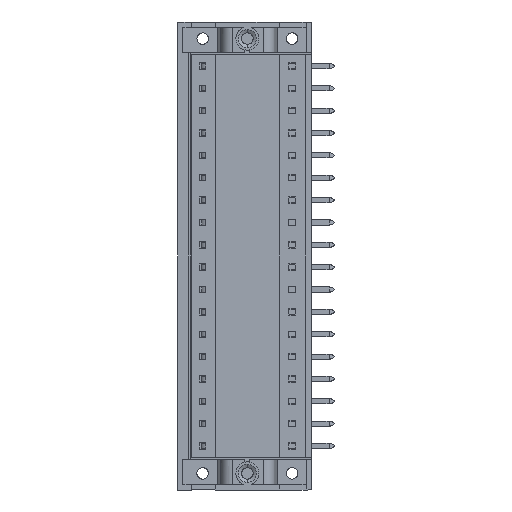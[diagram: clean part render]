
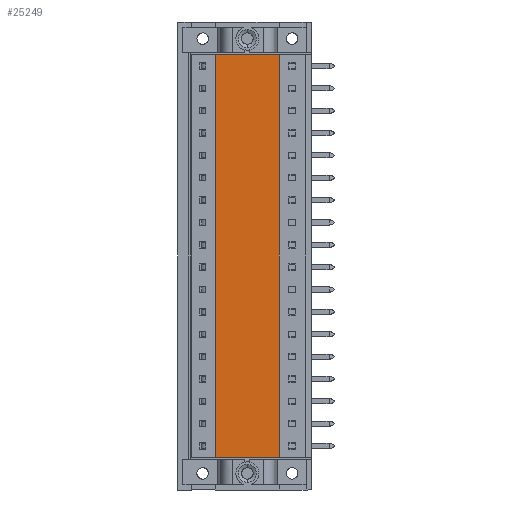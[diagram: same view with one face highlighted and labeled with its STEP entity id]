
A CAD part, left-side view. The second image highlights one B-rep face of the part: STEP entity #25249.
In plain terms, the highlighted planar face has unit normal (-1, 0, 0).
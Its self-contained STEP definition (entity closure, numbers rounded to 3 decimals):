
#2177 = VECTOR ( 'NONE', #35856, 1000. ) ;
#3134 = EDGE_CURVE ( 'NONE', #19084, #110798, #85505, .T. ) ;
#5164 = EDGE_CURVE ( 'NONE', #10055, #110798, #5722, .T. ) ;
#5722 = LINE ( 'NONE', #111110, #31256 ) ;
#7940 = EDGE_CURVE ( 'NONE', #106114, #19084, #72471, .T. ) ;
#8110 = ORIENTED_EDGE ( 'NONE', *, *, #7940, .T. ) ;
#10055 = VERTEX_POINT ( 'NONE', #18347 ) ;
#11328 = AXIS2_PLACEMENT_3D ( 'NONE', #80465, #97024, #88739 ) ;
#12091 = CARTESIAN_POINT ( 'NONE',  ( -21.7, 15., -83.9 ) ) ;
#17212 = DIRECTION ( 'NONE',  ( 0., -1., 0. ) ) ;
#18347 = CARTESIAN_POINT ( 'NONE',  ( -21.7, 15., -5.15 ) ) ;
#19084 = VERTEX_POINT ( 'NONE', #52242 ) ;
#19994 = DIRECTION ( 'NONE',  ( 0., 0., -1. ) ) ;
#25249 = ADVANCED_FACE ( 'NONE', ( #42162 ), #63203, .T. ) ;
#27960 = CARTESIAN_POINT ( 'NONE',  ( -21.7, 5., -83.9 ) ) ;
#31256 = VECTOR ( 'NONE', #67995, 1000. ) ;
#35856 = DIRECTION ( 'NONE',  ( 0., 0., 1. ) ) ;
#35878 = CARTESIAN_POINT ( 'NONE',  ( -21.7, 5., -5.15 ) ) ;
#37212 = ORIENTED_EDGE ( 'NONE', *, *, #3134, .T. ) ;
#42162 = FACE_OUTER_BOUND ( 'NONE', #97802, .T. ) ;
#43676 = VECTOR ( 'NONE', #19994, 1000. ) ;
#46680 = ORIENTED_EDGE ( 'NONE', *, *, #5164, .F. ) ;
#48831 = ORIENTED_EDGE ( 'NONE', *, *, #89235, .T. ) ;
#52242 = CARTESIAN_POINT ( 'NONE',  ( -21.7, 5., -68.15 ) ) ;
#63203 = PLANE ( 'NONE',  #11328 ) ;
#67995 = DIRECTION ( 'NONE',  ( 0., -1., 0. ) ) ;
#72471 = LINE ( 'NONE', #111508, #80537 ) ;
#80465 = CARTESIAN_POINT ( 'NONE',  ( -21.7, 5., -83.9 ) ) ;
#80537 = VECTOR ( 'NONE', #17212, 1000. ) ;
#85505 = LINE ( 'NONE', #27960, #2177 ) ;
#86375 = CARTESIAN_POINT ( 'NONE',  ( -21.7, 15., -68.15 ) ) ;
#88739 = DIRECTION ( 'NONE',  ( 0., 0., 1. ) ) ;
#89235 = EDGE_CURVE ( 'NONE', #10055, #106114, #92109, .T. ) ;
#92109 = LINE ( 'NONE', #12091, #43676 ) ;
#97024 = DIRECTION ( 'NONE',  ( -1., 0., 0. ) ) ;
#97802 = EDGE_LOOP ( 'NONE', ( #37212, #46680, #48831, #8110 ) ) ;
#106114 = VERTEX_POINT ( 'NONE', #86375 ) ;
#110798 = VERTEX_POINT ( 'NONE', #35878 ) ;
#111110 = CARTESIAN_POINT ( 'NONE',  ( -21.7, 6.9, -5.15 ) ) ;
#111508 = CARTESIAN_POINT ( 'NONE',  ( -21.7, 6.9, -68.15 ) ) ;
